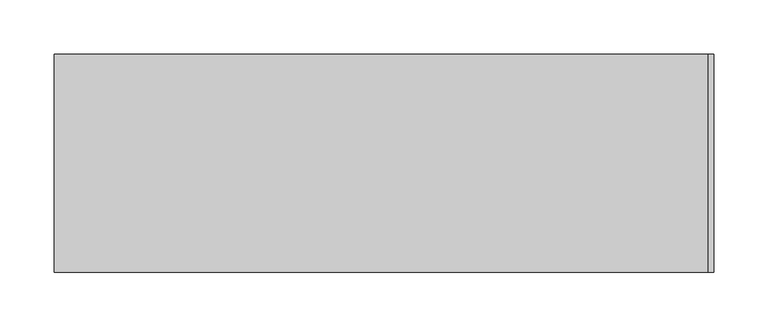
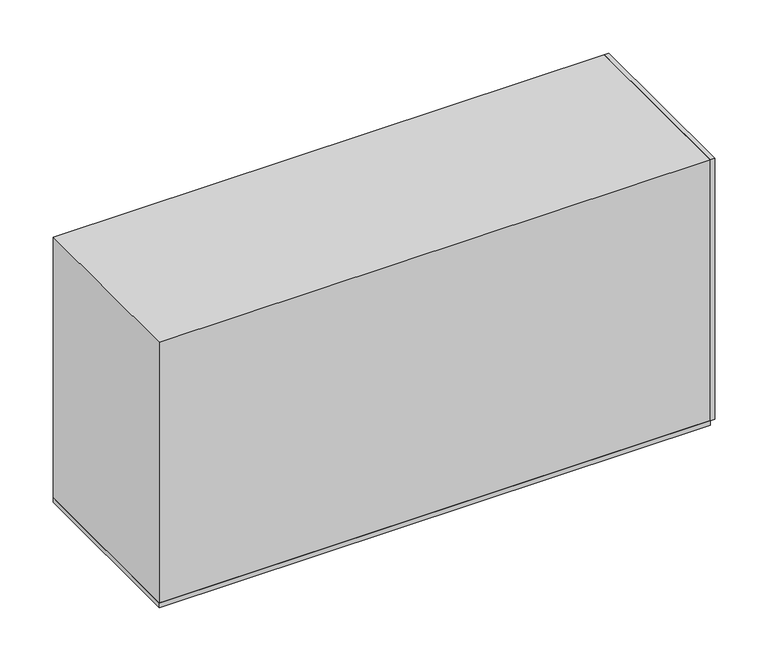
"""IFC4 building model written with IfcOpenShell, lengths in millimetres: proxy geometry, Módulo de Vedação de Concreto Celular - Celucon : MVCC 20x30x60cm (L x A x C)."""

from ifc_helpers import new_model, si_unit, frame, origin, origin_with_axes, place, context, project, spatial, polyline, outline, extrude, source, transform, mapped, element, save


def generic_models_76759fd5(model_context):
    return source(origin(), model_context, "Body", "SweptSolid", [
        extrude(outline(polyline([(300.0, -100.0), (-300.0, -100.0), (-300.0, 100.0), (300.0, 100.0), (300.0, -100.0)])), frame((0.0, 0.0, -5.0), z_axis=(0.0, 0.0, 1.0), x_axis=(1.0, 0.0, 0.0)), (0.0, 0.0, 1.0), 5.0),
        extrude(outline(polyline([(305.0, -100.0), (300.0, -100.0), (300.0, 100.0), (305.0, 100.0), (305.0, -100.0)])), origin_with_axes(), (0.0, 0.0, 1.0), 300.0),
        extrude(outline(polyline([(300.0, 100.0), (300.0, -100.0), (-300.0, -100.0), (-300.0, 100.0), (300.0, 100.0)])), origin_with_axes(), (0.0, 0.0, 1.0), 300.0),
    ])


if __name__ == "__main__":
    model = new_model("IFC4")
    model_context = context("Model", 3, world=origin())
    ifc_project = project(units=[si_unit("LENGTHUNIT", "METRE", prefix="MILLI")], contexts=[model_context])
    site = spatial("IfcSite", under=ifc_project)
    building = spatial("IfcBuilding", under=site)
    placement = place(None, origin())
    generic_models_shape = generic_models_76759fd5(model_context)
    element("IfcBuildingElementProxy", 1, Name="Módulo de Vedação de Concreto Celular - Celucon : MVCC 20x30x60cm (L x A x C)", ObjectType="Módulo de Vedação de Concreto Celular - Celucon : MVCC 20x30x60cm (L x A x C)", at=placement, inside=building, context=model_context, shape_type="MappedRepresentation", body=[
        mapped(generic_models_shape, transform((0.0, 0.0, 0.0), x_axis=(1.0, 0.0, 0.0), y_axis=(0.0, 1.0, 0.0), z_axis=(0.0, 0.0, 1.0))),
    ])
    save(model, "model.ifc")
